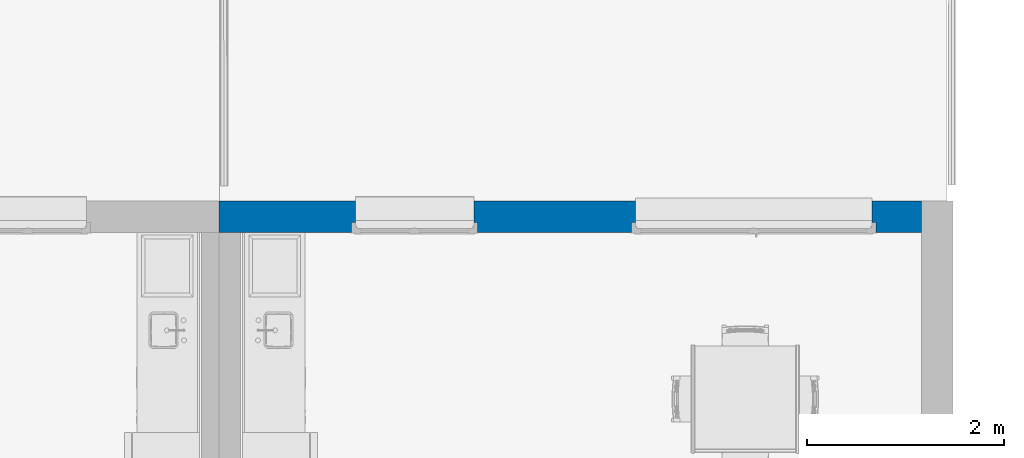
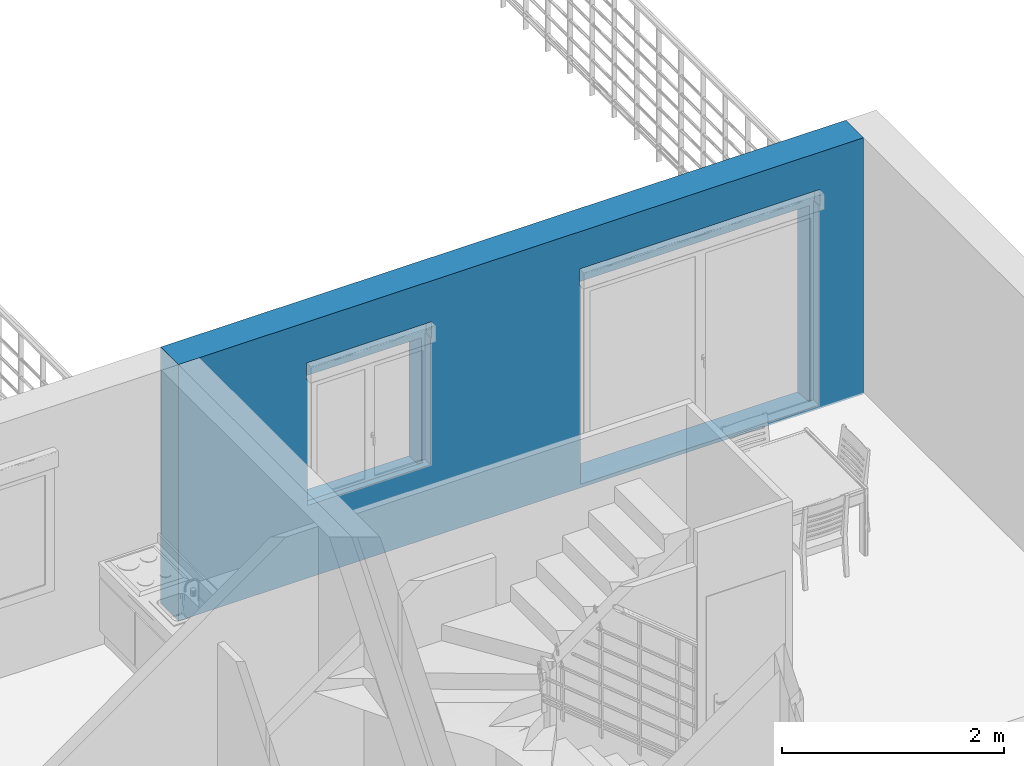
# One storey, part 24 of 33: 1 wall, 2 openings.
"""IFC2X3 building model written with IfcOpenShell, lengths in metres."""

import ifcopenshell
import ifcopenshell.guid

model = None  # the IFC model being written
_history = None  # IfcOwnerHistory: only IFC2X3 demands one
_inside = {}  # id of a spatial element -> (the spatial element, [elements in it])
_under = {}  # id of a project, library or spatial element -> (it, [spatial elements below it])
_declared = {}  # id of a project -> (the project, [libraries it declares])
_typed = {}  # id of a type object -> (the type object, [elements of that type])
_made_of = {}  # id of a material, layer set ... -> (it, [elements and type objects made of it])


def new_model(schema):
    """Start an empty IFC model of exactly this schema.

    Asked for "IFC4X3", IfcOpenShell would pick the latest addendum, in which some entities
    have other attributes; the version numbers below select the first issue.
    IFC2X3 requires an IfcOwnerHistory on every rooted entity: one is made here for all.
    """
    global model, _history
    if schema == "IFC4X3":
        model = ifcopenshell.file(schema_version=(4, 3, 0, 0))
    else:
        model = ifcopenshell.file(schema=schema)
    _inside.clear()
    _under.clear()
    _declared.clear()
    _typed.clear()
    _made_of.clear()
    _history = None
    if model.schema == "IFC2X3":
        org = make("IfcOrganization", Name="unknown")
        user = make(
            "IfcPersonAndOrganization",
            ThePerson=make("IfcPerson", FamilyName="unknown"),
            TheOrganization=org,
        )
        app = make(
            "IfcApplication",
            ApplicationDeveloper=org,
            Version="unknown",
            ApplicationFullName="unknown",
            ApplicationIdentifier="unknown",
        )
        _history = make(
            "IfcOwnerHistory",
            OwningUser=user,
            OwningApplication=app,
            ChangeAction="ADDED",
            CreationDate=0,
        )
    return model


def make(cls, **values):
    """One entity of the class cls with the attributes given. An attribute that is None is left unset."""
    return model.create_entity(
        cls, **{name: value for name, value in values.items() if value is not None}
    )


def entity(cls, *values):
    """Any entity or typed value of the class cls, its attributes in the order of the schema. None: left unset."""
    e = model.create_entity(cls)
    for i, value in enumerate(values):
        if value is not None:
            e[i] = value
    return e


def rooted(cls, **values):
    """An entity with a GlobalId (a new one), such as an element, a storey or a relation."""
    return make(cls, GlobalId=ifcopenshell.guid.new(), OwnerHistory=_history, **values)


def si_unit(unit_type, name, prefix=None):
    """IfcSIUnit, for example si_unit("LENGTHUNIT", "METRE", prefix="MILLI")."""
    return make("IfcSIUnit", UnitType=unit_type, Prefix=prefix, Name=name)


def converted_unit(unit_type, name, factor, base, dimensions=None, offset=None):
    """IfcConversionBasedUnit, such as the inch: factor (a typed value) times the base unit."""
    return make(
        "IfcConversionBasedUnit"
        if offset is None
        else "IfcConversionBasedUnitWithOffset",
        ConversionOffset=offset,
        Dimensions=None
        if dimensions is None
        else entity("IfcDimensionalExponents", *dimensions),
        UnitType=unit_type,
        Name=name,
        ConversionFactor=make(
            "IfcMeasureWithUnit", ValueComponent=factor, UnitComponent=base
        ),
    )


def derived_unit(unit_type, elements):
    """IfcDerivedUnit: a product of units, each with its exponent."""
    return make(
        "IfcDerivedUnit",
        Elements=[
            make("IfcDerivedUnitElement", Unit=unit, Exponent=power)
            for unit, power in elements
        ],
        UnitType=unit_type,
    )


def assignment(units):
    """IfcUnitAssignment: the units of a project."""
    return None if units is None else make("IfcUnitAssignment", Units=units)


def point(xyz):
    """IfcCartesianPoint."""
    return None if xyz is None else make("IfcCartesianPoint", Coordinates=xyz)


def direction(xyz):
    """IfcDirection."""
    return None if xyz is None else make("IfcDirection", DirectionRatios=xyz)


def frame(location, z_axis=None, x_axis=None):
    """IfcAxis2Placement3D, a coordinate frame: its origin and axes. An axis left out is left unset."""
    return make(
        "IfcAxis2Placement3D",
        Location=point(location),
        Axis=direction(z_axis),
        RefDirection=direction(x_axis),
    )


def frame_2d(location, x_axis=None):
    """IfcAxis2Placement2D, a coordinate frame in the plane: its origin and x axis."""
    return make(
        "IfcAxis2Placement2D", Location=point(location), RefDirection=direction(x_axis)
    )


def origin():
    """The frame at (0, 0, 0) with its axes left unset."""
    return frame((0.0, 0.0, 0.0))


def place(relative_to, where):
    """IfcLocalPlacement: puts the frame where relative to a parent placement (None: the world)."""
    return make(
        "IfcLocalPlacement", PlacementRelTo=relative_to, RelativePlacement=where
    )


def context(
    kind, dimensions, precision=None, world=None, true_north=None, identifier=None
):
    """IfcGeometricRepresentationContext, for example the 3D "Model" context."""
    return make(
        "IfcGeometricRepresentationContext",
        ContextIdentifier=identifier,
        ContextType=kind,
        CoordinateSpaceDimension=dimensions,
        Precision=precision,
        WorldCoordinateSystem=world,
        TrueNorth=true_north,
    )


def subcontext(parent, identifier, kind, view, scale=None):
    """IfcGeometricRepresentationSubContext, for example "Body" below "Model"."""
    return make(
        "IfcGeometricRepresentationSubContext",
        ContextIdentifier=identifier,
        ContextType=kind,
        ParentContext=parent,
        TargetScale=scale,
        TargetView=view,
    )


def project(units=None, contexts=None):
    """IfcProject with its units and contexts."""
    return rooted(
        "IfcProject",
        Name="project",
        RepresentationContexts=contexts,
        UnitsInContext=assignment(units),
    )


def spatial(cls, under=None, at=None, **own):
    """A site, building, storey or space (cls), placed at a placement, below another one or the project."""
    s = rooted(cls, ObjectPlacement=at, **own)
    if under is not None:
        _under.setdefault(under.id(), (under, []))[1].append(s)
    return s


def profile(cls, at=None, kind="AREA", **sizes):
    """A parametric profile (cls). Its sizes go by their IFC names, for example OverallWidth=200.0."""
    return make(cls, ProfileType=kind, Position=at, **sizes)


def rectangle(**sizes):
    """IfcRectangleProfileDef."""
    return profile("IfcRectangleProfileDef", **sizes)


def extrude(swept, where, along, depth):
    """IfcExtrudedAreaSolid: the profile swept, set in the frame where, extruded along a direction by depth."""
    return make(
        "IfcExtrudedAreaSolid",
        SweptArea=swept,
        Position=where,
        ExtrudedDirection=direction(along),
        Depth=depth,
    )


def faces_of(points, faces, orient=None, outer=None):
    """IfcFace entities. A face is a list of loops; a loop is a list of indices into points, from 0.

    orient and outer hold one flag for each loop. By default every Orientation is true, the
    first loop of a face is its IfcFaceOuterBound and the others are IfcFaceBound.
    """
    made = []
    for i, loops in enumerate(faces):
        bounds = []
        for j, loop in enumerate(loops):
            is_outer = j == 0 if outer is None else outer[i][j]
            bounds.append(
                make(
                    "IfcFaceOuterBound" if is_outer else "IfcFaceBound",
                    Bound=make("IfcPolyLoop", Polygon=[points[k] for k in loop]),
                    Orientation=True if orient is None else orient[i][j],
                )
            )
        made.append(make("IfcFace", Bounds=bounds))
    return made


def faceted_brep(points, faces, orient=None, outer=None, voids=None):
    """IfcFacetedBrep: a solid bounded by flat faces; with voids (closed shells), ...WithVoids."""
    shared = [point(p) for p in points]
    hull = make("IfcClosedShell", CfsFaces=faces_of(shared, faces, orient, outer))
    if voids is None:
        return make("IfcFacetedBrep", Outer=hull)
    return make(
        "IfcFacetedBrepWithVoids",
        Outer=hull,
        Voids=[
            make(cls, CfsFaces=faces_of(shared, fs, o, b)) for cls, fs, o, b in voids
        ],
    )


def shape(context_of_items, identifier, shape_type, items):
    """IfcShapeRepresentation: the items that make up one representation, for example the "Body"."""
    return make(
        "IfcShapeRepresentation",
        ContextOfItems=context_of_items,
        RepresentationIdentifier=identifier,
        RepresentationType=shape_type,
        Items=items,
    )


def material(Name=None, Category=None):
    """IfcMaterial."""
    return make("IfcMaterial", Name=Name, Category=Category)


def layer(
    of_material, thickness, ventilated=None, Name=None, Category=None, Priority=None
):
    """IfcMaterialLayer: one layer of a wall or slab, of a material (None: an air gap)."""
    return make(
        "IfcMaterialLayer",
        Material=of_material,
        LayerThickness=thickness,
        IsVentilated=ventilated,
        Name=Name,
        Category=Category,
        Priority=Priority,
    )


def layer_set(layers, Name=None):
    """IfcMaterialLayerSet."""
    return make("IfcMaterialLayerSet", MaterialLayers=layers, LayerSetName=Name)


def layer_usage(for_layer_set, set_direction, sense, offset, extent=None):
    """IfcMaterialLayerSetUsage: how a layer set lies in its element."""
    return make(
        "IfcMaterialLayerSetUsage",
        ForLayerSet=for_layer_set,
        LayerSetDirection=set_direction,
        DirectionSense=sense,
        OffsetFromReferenceLine=offset,
        ReferenceExtent=extent,
    )


def made_of(thing, what):
    """Note that an element or type object is made of a material, layer set ...; save() writes the relation."""
    if what is not None:
        _made_of.setdefault(what.id(), (what, []))[1].append(thing)
    return thing


def type_object(cls, material=None, **own):
    """A type object (cls), such as IfcWallType, which elements share."""
    return made_of(rooted(cls, **own), material)


def element(
    cls,
    number,
    at=None,
    inside=None,
    cuts=None,
    type_object=None,
    material=None,
    context=None,
    identifier="Body",
    shape_type=None,
    held_by="IfcProductDefinitionShape",
    body=None,
    shapes=None,
    **own,
):
    """One element of the class cls, such as IfcWall. Its Tag is "e" and its number.

    at: its placement. inside: the storey or other place that contains it. cuts: it is an
    opening in that element (IfcRelVoidsElement). A single representation is given by context,
    identifier, shape_type and body (its items); several are given by shapes. held_by: the class
    of the entity that holds the representations. save() writes the other relations.
    """
    e = rooted(cls, Tag="e%d" % number, ObjectPlacement=at, **own)
    if body is not None:
        shapes = [shape(context, identifier, shape_type, body)]
    if shapes is not None:
        e.Representation = make(held_by, Representations=shapes)
    if inside is not None:
        _inside.setdefault(inside.id(), (inside, []))[1].append(e)
    if cuts is not None:
        rooted(
            "IfcRelVoidsElement", RelatingBuildingElement=cuts, RelatedOpeningElement=e
        )
    if type_object is not None:
        _typed.setdefault(type_object.id(), (type_object, []))[1].append(e)
    return made_of(e, material)


def aggregate(whole, parts):
    """IfcRelAggregates: a whole, such as a stair, and the parts it consists of."""
    return rooted("IfcRelAggregates", RelatingObject=whole, RelatedObjects=parts)


def save(model, path):
    """Write the relations noted so far, then the file.

    IfcRelAggregates (storeys below a building ...), IfcRelContainedInSpatialStructure (elements
    in a storey), IfcRelDefinesByType, IfcRelAssociatesMaterial and IfcRelDeclares: one each for
    every whole, place, type object, material and project.
    """
    for whole, parts in _under.values():
        aggregate(whole, parts)
    for where, things in _inside.values():
        rooted(
            "IfcRelContainedInSpatialStructure",
            RelatedElements=things,
            RelatingStructure=where,
        )
    for kind, things in _typed.values():
        rooted("IfcRelDefinesByType", RelatedObjects=things, RelatingType=kind)
    for what, things in _made_of.values():
        rooted("IfcRelAssociatesMaterial", RelatedObjects=things, RelatingMaterial=what)
    for by, libraries in _declared.values():
        rooted("IfcRelDeclares", RelatingContext=by, RelatedDefinitions=libraries)
    model.write(path)


model = new_model("IFC2X3")

# Units and contexts
model_context = context("Model", 3, precision=1e-05, world=origin(), true_north=direction((6.12303176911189e-17, 1.0)))
context_of_model = context(None, 3, precision=1e-05, world=origin(), true_north=direction((6.12303176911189e-17, 1.0)))
body_context = subcontext(model_context, "Body", "Model", "MODEL_VIEW")
ifc_project = project(units=[si_unit("LENGTHUNIT", "METRE"), si_unit("AREAUNIT", "SQUARE_METRE"), si_unit("VOLUMEUNIT", "CUBIC_METRE"), converted_unit("PLANEANGLEUNIT", "DEGREE", entity("IfcRatioMeasure", 0.0174532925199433), si_unit("PLANEANGLEUNIT", "RADIAN"), dimensions=[0, 0, 0, 0, 0, 0, 0]), si_unit("MASSUNIT", "GRAM", prefix="KILO"), si_unit("TIMEUNIT", "SECOND"), si_unit("FREQUENCYUNIT", "HERTZ"), si_unit("THERMODYNAMICTEMPERATUREUNIT", "DEGREE_CELSIUS"), derived_unit("THERMALTRANSMITTANCEUNIT", [(si_unit("MASSUNIT", "GRAM", prefix="KILO"), 1), (si_unit("THERMODYNAMICTEMPERATUREUNIT", "KELVIN"), -1), (si_unit("TIMEUNIT", "SECOND"), -3)]), derived_unit("VOLUMETRICFLOWRATEUNIT", [(si_unit("LENGTHUNIT", "METRE"), 3), (si_unit("TIMEUNIT", "SECOND"), -1)]), si_unit("ELECTRICCURRENTUNIT", "AMPERE"), si_unit("ELECTRICVOLTAGEUNIT", "VOLT"), si_unit("POWERUNIT", "WATT"), si_unit("FORCEUNIT", "NEWTON", prefix="KILO"), si_unit("ILLUMINANCEUNIT", "LUX"), si_unit("LUMINOUSFLUXUNIT", "LUMEN"), si_unit("LUMINOUSINTENSITYUNIT", "CANDELA"), si_unit("PRESSUREUNIT", "PASCAL")], contexts=[model_context, context_of_model])

# Site, building, storey
site_placement = place(None, origin())
site = spatial("IfcSite", under=ifc_project, at=site_placement, Name="Surface", CompositionType="ELEMENT")
building_placement = place(site_placement, origin())
building = spatial("IfcBuilding", under=site, at=building_placement, CompositionType="ELEMENT")
storey_placement = place(building_placement, origin())
storey = spatial("IfcBuildingStorey", under=building, at=storey_placement, Name="Plan des fondations  Maisons 1 et 2", CompositionType="ELEMENT", Elevation=0.0)

# Wall, openings
ifc_material_1 = material(Name="Enduit blanc cassé2")
ifc_layer_1 = layer(ifc_material_1, 0.02)
ifc_material_2 = material(Name="Parpaing")
ifc_layer_2 = layer(ifc_material_2, 0.2)
ifc_material_3 = material(Name="Isolant")
ifc_layer_3 = layer(ifc_material_3, 0.1)
ifc_layer_set = layer_set([ifc_layer_1, ifc_layer_2, ifc_layer_3], Name="Mur de base:Ext. Parpaing 20 + Isolant 10 enduit blanc cassé")
ifc_layer_usage = layer_usage(ifc_layer_set, "AXIS2", "POSITIVE", -0.16)
wall_type = type_object("IfcWallType", Name="Mur de base:Ext. Parpaing 20 + Isolant 10 enduit blanc cassé", PredefinedType="STANDARD", material=ifc_layer_set)
wall_placement = place(building_placement, frame((90.8350487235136, 92.3075239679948, 0.0), z_axis=(0.0, 0.0, 1.0), x_axis=(-1.0, 0.0, 0.0)))
wall = element("IfcWallStandardCase", 1, at=wall_placement, inside=storey, type_object=wall_type, material=ifc_layer_usage, Name="Mur de base:Ext. Parpaing 20 + Isolant 10 enduit blanc cassé", ObjectType="Mur de base:Ext. Parpaing 20 + Isolant 10 enduit blanc cassé", context=body_context, shape_type="SweptSolid", body=[
    extrude(rectangle(XDim=7.12826294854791, YDim=0.319999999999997, at=frame_2d((3.56413147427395, 0.0), x_axis=(-1.0, 0.0))), origin(), (0.0, 0.0, 1.0), 2.82),
])
opening_1_placement = place(wall_placement, frame((5.79220465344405, 0.500000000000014, 0.719999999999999), z_axis=(0.0, 0.0, 1.0), x_axis=(-1.0, 0.0, 0.0)))
element("IfcOpeningElement", 2, at=opening_1_placement, cuts=wall, Name="Mur de base:Ext. Parpaing 20 + Isolant 10 enduit blanc cassé", ObjectType="Opening", context=body_context, shape_type="Brep", body=[
    faceted_brep([(1.24999999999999, 0.0, 1.43), (0.0499999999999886, 0.0, 1.43), (0.0499999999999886, 0.0, 0.0799999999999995), (1.24999999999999, 0.0, 0.0799999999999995), (1.24999999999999, 1.0, 1.43), (1.24999999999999, 1.0, 0.0799999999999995), (0.0499999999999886, 1.0, 0.0799999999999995), (0.0499999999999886, 1.0, 1.43), (1.24999999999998, 0.327000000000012, 1.43), (0.0499999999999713, 0.327000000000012, 1.43), (0.0499999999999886, 0.326999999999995, 0.0799999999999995), (0.00999999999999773, 0.326999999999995, 0.0799999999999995), (0.00999999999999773, 0.440000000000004, 0.0799999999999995), (0.0499999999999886, 0.440000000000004, 0.0799999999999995), (0.0499999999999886, 0.405000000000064, 0.0799999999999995), (1.24999999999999, 0.405000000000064, 0.0799999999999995), (1.24999999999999, 0.440000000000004, 0.0799999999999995), (1.28999999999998, 0.440000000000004, 0.0799999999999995), (1.28999999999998, 0.326999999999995, 0.0799999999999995), (1.24999999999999, 0.326999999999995, 0.0799999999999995), (1.28999999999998, 0.327000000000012, 1.47), (0.00999999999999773, 0.327000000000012, 1.47), (0.0099999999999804, 0.440000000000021, 1.47), (0.0, 0.440000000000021, 1.47), (0.0, 0.440000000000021, 1.65), (1.29999999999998, 0.440000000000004, 1.65), (1.29999999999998, 0.440000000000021, 1.47), (1.28999999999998, 0.440000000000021, 1.47), (1.24999999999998, 0.440000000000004, 1.43), (0.0499999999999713, 0.440000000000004, 1.43), (0.0, 0.307000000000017, 1.65), (0.0, 0.307000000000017, 1.47), (1.29999999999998, 0.307000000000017, 1.65), (1.29999999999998, 0.307000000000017, 1.47), (0.0499999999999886, 0.440000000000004, 0.0), (1.24999999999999, 0.440000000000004, 0.0), (1.24999999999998, 0.405000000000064, 0.0349999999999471), (0.0499999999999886, 0.405000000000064, 0.0349999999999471), (0.0499999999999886, 0.705000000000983, 0.0799999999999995), (1.24999999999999, 0.705000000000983, 0.0799999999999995), (1.24999999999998, 0.705000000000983, 0.0), (0.0499999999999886, 0.705000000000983, 0.0)], [[[0, 1, 2, 3]], [[4, 5, 6, 7]], [[0, 8, 9, 1]], [[1, 9, 10, 2]], [[2, 10, 11, 12, 13, 14, 15, 16, 17, 18, 19, 3]], [[3, 19, 8, 0]], [[10, 9, 8, 19, 18, 20, 21, 11]], [[11, 21, 22, 12]], [[12, 22, 23, 24, 25, 26, 27, 17, 16, 28, 29, 13]], [[18, 17, 27, 20]], [[30, 24, 23, 31]], [[32, 33, 26, 25]], [[30, 32, 25, 24]], [[23, 22, 21, 20, 27, 26, 33, 31]], [[31, 33, 32, 30]], [[34, 35, 36, 37]], [[37, 36, 15, 14]], [[38, 39, 40, 41]], [[41, 40, 35, 34]], [[4, 28, 16, 15, 36, 35, 40, 39, 5]], [[5, 39, 38, 6]], [[6, 38, 41, 34, 37, 14, 13, 29, 7]], [[7, 29, 28, 4]]]),
])
opening_2_placement = place(wall_placement, frame((2.95307317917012, 0.500000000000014, 0.006120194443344), z_axis=(0.0, 0.0, 1.0), x_axis=(-1.0, 0.0, 0.0)))
element("IfcOpeningElement", 3, at=opening_2_placement, cuts=wall, Name="Mur de base:Ext. Parpaing 20 + Isolant 10 enduit blanc cassé", ObjectType="Opening", context=body_context, shape_type="Brep", body=[
    faceted_brep([(2.44999999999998, 0.0, 2.18387980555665), (0.0499999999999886, 0.0, 2.18387980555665), (0.0499999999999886, 0.0, 0.0338798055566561), (2.44999999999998, 0.0, 0.0338798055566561), (2.44999999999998, 1.0, 2.18387980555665), (2.44999999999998, 1.0, 0.0338798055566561), (0.0499999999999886, 1.0, 0.0338798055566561), (0.0499999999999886, 1.0, 2.18387980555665), (2.44999999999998, 0.327000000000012, 2.18387980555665), (0.0499999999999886, 0.327000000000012, 2.18387980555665), (0.0499999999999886, 0.326999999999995, 0.0338798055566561), (0.00999999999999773, 0.326999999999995, 0.0338798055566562), (0.00999999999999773, 0.440000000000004, 0.0338798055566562), (0.0499999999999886, 0.440000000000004, 0.0338798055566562), (0.0499999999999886, 0.437999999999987, 0.0338798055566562), (2.45, 0.437999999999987, 0.0338798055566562), (2.45, 0.440000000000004, 0.0338798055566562), (2.48999999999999, 0.440000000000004, 0.0338798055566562), (2.48999999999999, 0.326999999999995, 0.0338798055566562), (2.45, 0.326999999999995, 0.0338798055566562), (2.48999999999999, 0.327000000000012, 2.22387980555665), (0.00999999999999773, 0.327000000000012, 2.22387980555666), (0.0099999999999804, 0.440000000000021, 2.22387980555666), (0.0, 0.440000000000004, 2.22387980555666), (0.0, 0.440000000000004, 2.40387980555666), (2.49999999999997, 0.440000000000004, 2.40387980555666), (2.49999999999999, 0.440000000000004, 2.22387980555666), (2.48999999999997, 0.440000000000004, 2.22387980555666), (2.44999999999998, 0.440000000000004, 2.18387980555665), (0.0499999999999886, 0.440000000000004, 2.18387980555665), (0.0, 0.307, 2.40387980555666), (0.0, 0.307, 2.22387980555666), (2.49999999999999, 0.307, 2.40387980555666), (2.49999999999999, 0.307, 2.22387980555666), (0.0499999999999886, 0.437999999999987, 0.0220471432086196), (2.44999999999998, 0.437999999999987, 0.0220471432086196), (0.0499999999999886, 0.690000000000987, 0.0338798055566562), (2.45, 0.690000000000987, 0.0338798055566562), (2.44999999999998, 0.690000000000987, 0.0), (0.0499999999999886, 0.690000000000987, 0.0)], [[[0, 1, 2, 3]], [[4, 5, 6, 7]], [[0, 8, 9, 1]], [[1, 9, 10, 2]], [[2, 10, 11, 12, 13, 14, 15, 16, 17, 18, 19, 3]], [[3, 19, 8, 0]], [[10, 9, 8, 19, 18, 20, 21, 11]], [[11, 21, 22, 12]], [[12, 22, 23, 24, 25, 26, 27, 17, 16, 28, 29, 13]], [[18, 17, 27, 20]], [[30, 24, 23, 31]], [[32, 33, 26, 25]], [[30, 32, 25, 24]], [[23, 22, 21, 20, 27, 26, 33, 31]], [[31, 33, 32, 30]], [[34, 35, 15, 14]], [[36, 37, 38, 39]], [[39, 38, 35, 34]], [[4, 28, 16, 15, 35, 38, 37, 5]], [[5, 37, 36, 6]], [[6, 36, 39, 34, 14, 13, 29, 7]], [[7, 29, 28, 4]]]),
])

save(model, "model.ifc")
